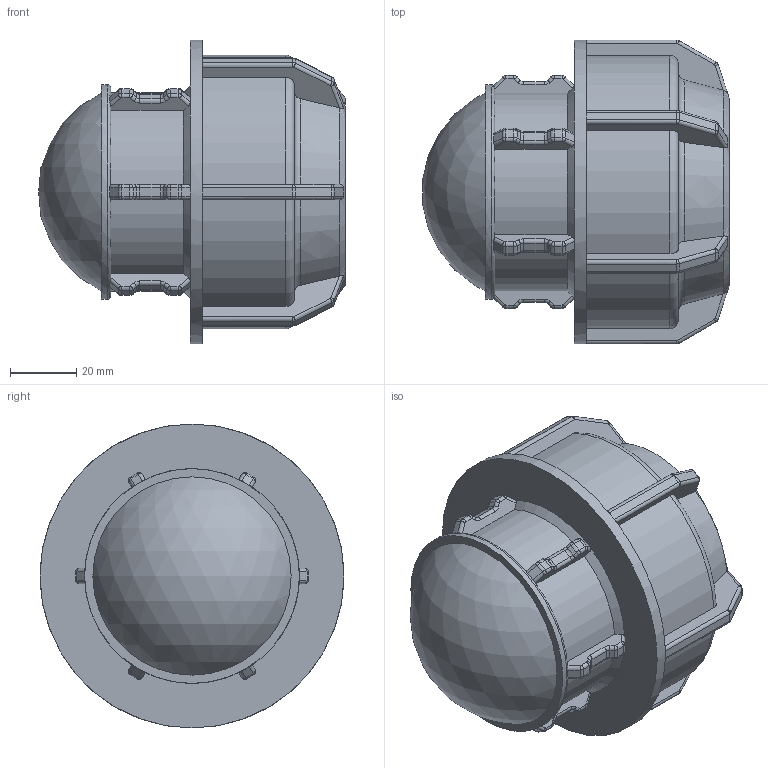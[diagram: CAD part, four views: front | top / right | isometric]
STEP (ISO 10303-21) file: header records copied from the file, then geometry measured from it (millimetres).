
FILE_DESCRIPTION(/* description */ ('PLASSON L.14 END PLUG (SILVER) 50'),/* implementation_level */ '2;1');
FILE_NAME(/* name */ 'C:\Dropbox\KIMPROJECTS-Inventor\99-16-3568-Processing\Silver+MF ISRAEL\141200\141200050.ipt.stp',/* time_stamp */ '2018-04-09T13:04:44+03:00',/* author */ ('KIM'),/* organization */ (''),/* preprocessor_version */ 'ST-DEVELOPER v15.6',/* originating_system */ 'Autodesk Inventor 2015',/* authorisation */ '');
FILE_SCHEMA (('AUTOMOTIVE_DESIGN { 1 0 10303 214 3 1 1 }'));
Length unit declared in the file: millimetre
Products named in the file (1): 141200050
Bounding box: 92.79 x 92 x 92 mm (x, y, z)
Volume: 184528.2 mm3; surface area: 46625.1 mm2
Topology: 1 solids, 1 shells, 467 faces, 1154 edges, 685 vertices
Faces by surface type: cylinder 184, plane 157, bspline 72, torus 39, cone 13, sphere 2
Full cylindrical faces by diameter (mm): 50 x2, 65 x1, 92 x1
Entity records: 14392 total; most frequent: CARTESIAN_POINT 3773, DIRECTION 2288, ORIENTED_EDGE 2240, EDGE_CURVE 1120, AXIS2_PLACEMENT_3D 919, VERTEX_POINT 670, CIRCLE 502, EDGE_LOOP 476
